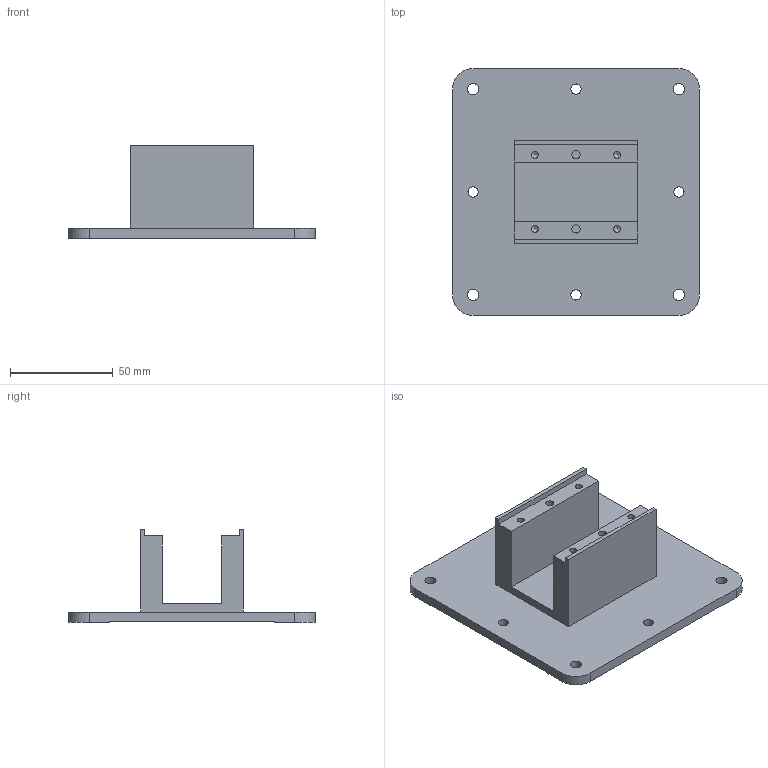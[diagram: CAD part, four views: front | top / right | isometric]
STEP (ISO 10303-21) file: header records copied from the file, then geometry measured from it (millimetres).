
FILE_DESCRIPTION(('FreeCAD Model'),'2;1');
FILE_NAME('C:/Users/Patrik/Desktop/FreeCAD/0000-0200 Lineární aktuátor, LM statický/0201_DRZAK_0_1.step','2019-02-21T22:55:02',('Author'),(''), 'Open CASCADE STEP processor 7.2','FreeCAD','Unknown');
FILE_SCHEMA(('AUTOMOTIVE_DESIGN { 1 0 10303 214 1 1 1 1 }'));
Length unit declared in the file: millimetre
Products named in the file (1): Body
Bounding box: 120 x 120 x 45 mm (x, y, z)
Volume: 119777.4 mm3; surface area: 42714.3 mm2
Topology: 1 solids, 1 shells, 47 faces, 122 edges, 80 vertices
Faces by surface type: plane 25, cylinder 18, cone 4
Full cylindrical faces by diameter (mm): 3.3 x4, 4 x2, 5 x4, 5.5 x4
Entity records: 3079 total; most frequent: CARTESIAN_POINT 626, DIRECTION 462, LINE 286, VECTOR 286, ORIENTED_EDGE 236, PCURVE 236, DEFINITIONAL_REPRESENTATION 236, EDGE_CURVE 118
